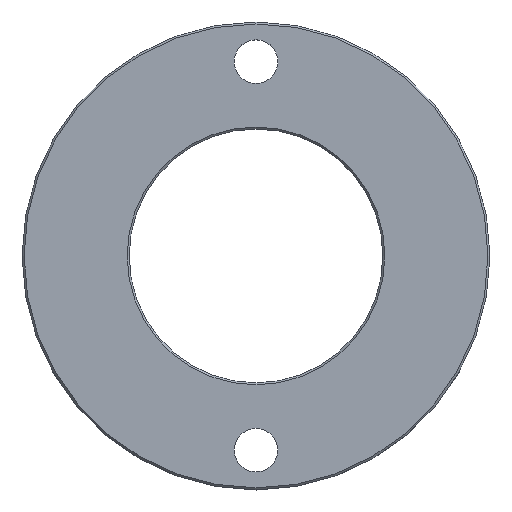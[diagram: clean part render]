
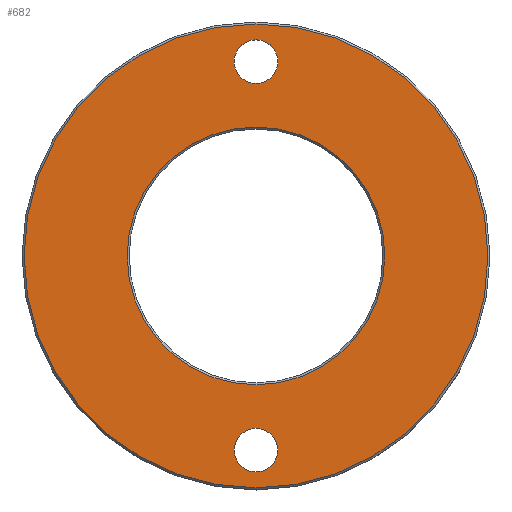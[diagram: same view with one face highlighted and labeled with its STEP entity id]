
A CAD part, top view. The second image highlights one B-rep face of the part: STEP entity #682.
In plain terms, the highlighted planar face has unit normal (0, 0, 1).
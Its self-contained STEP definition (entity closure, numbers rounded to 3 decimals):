
#93=VERTEX_POINT(' ',#94);
#94=CARTESIAN_POINT('',(0.,54.5,0.));
#95=VERTEX_POINT(' ',#96);
#96=CARTESIAN_POINT('',(0.,43.5,0.));
#101=VERTEX_POINT(' ',#102);
#102=CARTESIAN_POINT('',(0.,-43.5,0.));
#103=VERTEX_POINT(' ',#104);
#104=CARTESIAN_POINT('',(0.,-54.5,0.));
#137=VERTEX_POINT(' ',#138);
#138=CARTESIAN_POINT('',(0.,-32.5,0.));
#139=VERTEX_POINT(' ',#140);
#140=CARTESIAN_POINT('',(0.,32.5,0.));
#141=VERTEX_POINT(' ',#142);
#142=CARTESIAN_POINT('',(0.,-58.5,0.));
#143=VERTEX_POINT(' ',#144);
#144=CARTESIAN_POINT('',(0.,58.5,0.));
#168=CIRCLE('',#169,5.5);
#169=AXIS2_PLACEMENT_3D('',#170,#171,#172);
#170=CARTESIAN_POINT('',(0.,49.,0.));
#171=DIRECTION('',(0.,0.,1.));
#172=DIRECTION('',(1.,0.,0.));
#173=EDGE_CURVE(' ',#93,#95,#168,.T.);
#185=CIRCLE('',#186,5.5);
#186=AXIS2_PLACEMENT_3D('',#187,#188,#189);
#187=CARTESIAN_POINT('',(0.,49.,0.));
#188=DIRECTION('',(0.,0.,1.));
#189=DIRECTION('',(-1.,0.,0.));
#190=EDGE_CURVE(' ',#95,#93,#185,.T.);
#202=CIRCLE('',#203,5.5);
#203=AXIS2_PLACEMENT_3D('',#204,#205,#206);
#204=CARTESIAN_POINT('',(0.,-49.,0.));
#205=DIRECTION('',(0.,0.,1.));
#206=DIRECTION('',(1.,0.,0.));
#207=EDGE_CURVE(' ',#101,#103,#202,.T.);
#219=CIRCLE('',#220,5.5);
#220=AXIS2_PLACEMENT_3D('',#221,#222,#223);
#221=CARTESIAN_POINT('',(0.,-49.,0.));
#222=DIRECTION('',(0.,0.,1.));
#223=DIRECTION('',(-1.,0.,0.));
#224=EDGE_CURVE(' ',#103,#101,#219,.T.);
#371=CIRCLE('',#372,32.5);
#372=AXIS2_PLACEMENT_3D('',#373,#374,#375);
#373=CARTESIAN_POINT('',(0.,0.,0.));
#374=DIRECTION('',(0.,0.,1.));
#375=DIRECTION('',(1.,0.,0.));
#376=EDGE_CURVE(' ',#139,#137,#371,.T.);
#377=CIRCLE('',#378,32.5);
#378=AXIS2_PLACEMENT_3D('',#379,#380,#381);
#379=CARTESIAN_POINT('',(0.,0.,0.));
#380=DIRECTION('',(0.,0.,1.));
#381=DIRECTION('',(-1.,0.,0.));
#382=EDGE_CURVE(' ',#137,#139,#377,.T.);
#383=CIRCLE('',#384,58.5);
#384=AXIS2_PLACEMENT_3D('',#385,#386,#387);
#385=CARTESIAN_POINT('',(0.,0.,0.));
#386=DIRECTION('',(0.,0.,-1.));
#387=DIRECTION('',(-1.,0.,0.));
#388=EDGE_CURVE(' ',#143,#141,#383,.T.);
#389=CIRCLE('',#390,58.5);
#390=AXIS2_PLACEMENT_3D('',#391,#392,#393);
#391=CARTESIAN_POINT('',(0.,0.,0.));
#392=DIRECTION('',(0.,0.,-1.));
#393=DIRECTION('',(1.,0.,0.));
#394=EDGE_CURVE(' ',#141,#143,#389,.T.);
#661=ORIENTED_EDGE('',*,*,#388,.F.);
#662=ORIENTED_EDGE('',*,*,#394,.F.);
#663=EDGE_LOOP('',(#661,#662));
#664=FACE_OUTER_BOUND('',#663,.T.);
#665=ORIENTED_EDGE('',*,*,#382,.F.);
#666=ORIENTED_EDGE('',*,*,#376,.F.);
#667=EDGE_LOOP('',(#665,#666));
#668=FACE_BOUND('',#667,.T.);
#669=ORIENTED_EDGE('',*,*,#173,.F.);
#670=ORIENTED_EDGE('',*,*,#190,.F.);
#671=EDGE_LOOP('',(#669,#670));
#672=FACE_BOUND('',#671,.T.);
#673=ORIENTED_EDGE('',*,*,#207,.F.);
#674=ORIENTED_EDGE('',*,*,#224,.F.);
#675=EDGE_LOOP('',(#673,#674));
#676=FACE_BOUND('',#675,.T.);
#677=PLANE('',#678);
#678=AXIS2_PLACEMENT_3D('',#679,#680,#681);
#679=CARTESIAN_POINT('',(59.,0.,0.));
#680=DIRECTION('',(0.,0.,1.));
#681=DIRECTION('',(0.,1.,0.));
#682=ADVANCED_FACE('',(#664,#668,#672,#676),#677,.T.);
